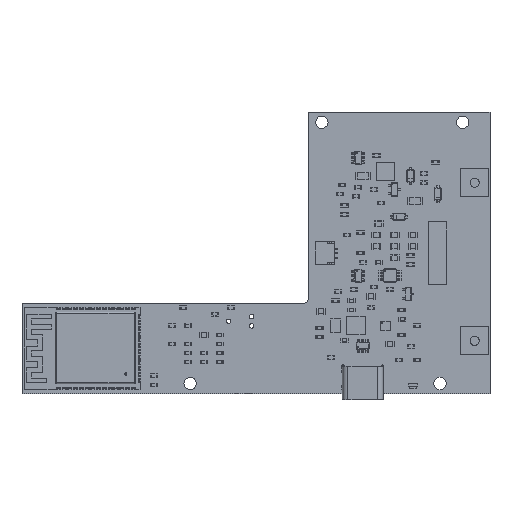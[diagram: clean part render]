
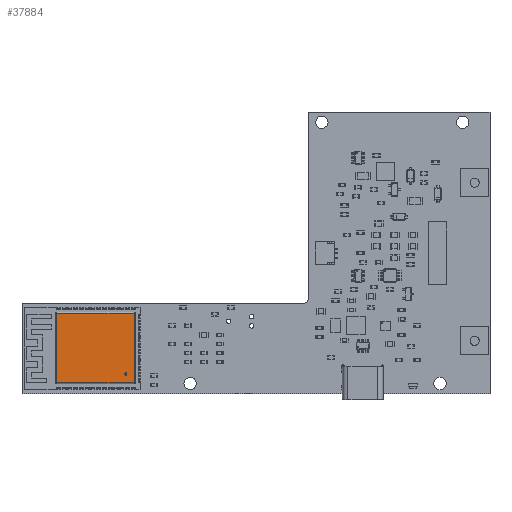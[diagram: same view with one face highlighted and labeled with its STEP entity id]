
A CAD part, top view. The second image highlights one B-rep face of the part: STEP entity #37884.
In plain terms, the highlighted planar face has unit normal (0, 0, 1).
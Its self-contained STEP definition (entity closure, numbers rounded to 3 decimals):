
#37708 = VERTEX_POINT('',#37709);
#37709 = CARTESIAN_POINT('',(-7.55,5.65,3.1));
#37716 = EDGE_CURVE('',#37708,#37717,#37719,.T.);
#37717 = VERTEX_POINT('',#37718);
#37718 = CARTESIAN_POINT('',(7.75,5.65,3.1));
#37719 = LINE('',#37720,#37721);
#37720 = CARTESIAN_POINT('',(-7.8,5.65,3.1));
#37721 = VECTOR('',#37722,1.);
#37722 = DIRECTION('',(1.,0.,0.));
#37884 = ADVANCED_FACE('',(#37885,#37910),#37921,.T.);
#37885 = FACE_BOUND('',#37886,.T.);
#37886 = EDGE_LOOP('',(#37887,#37897,#37903,#37904));
#37887 = ORIENTED_EDGE('',*,*,#37888,.F.);
#37888 = EDGE_CURVE('',#37889,#37891,#37893,.T.);
#37889 = VERTEX_POINT('',#37890);
#37890 = CARTESIAN_POINT('',(7.75,-11.45,3.1));
#37891 = VERTEX_POINT('',#37892);
#37892 = CARTESIAN_POINT('',(-7.55,-11.45,3.1));
#37893 = LINE('',#37894,#37895);
#37894 = CARTESIAN_POINT('',(8.,-11.45,3.1));
#37895 = VECTOR('',#37896,1.);
#37896 = DIRECTION('',(-1.,0.,0.));
#37897 = ORIENTED_EDGE('',*,*,#37898,.F.);
#37898 = EDGE_CURVE('',#37717,#37889,#37899,.T.);
#37899 = LINE('',#37900,#37901);
#37900 = CARTESIAN_POINT('',(7.75,5.9,3.1));
#37901 = VECTOR('',#37902,1.);
#37902 = DIRECTION('',(0.,-1.,0.));
#37903 = ORIENTED_EDGE('',*,*,#37716,.F.);
#37904 = ORIENTED_EDGE('',*,*,#37905,.F.);
#37905 = EDGE_CURVE('',#37891,#37708,#37906,.T.);
#37906 = LINE('',#37907,#37908);
#37907 = CARTESIAN_POINT('',(-7.55,-11.7,3.1));
#37908 = VECTOR('',#37909,1.);
#37909 = DIRECTION('',(0.,1.,0.));
#37910 = FACE_BOUND('',#37911,.T.);
#37911 = EDGE_LOOP('',(#37912));
#37912 = ORIENTED_EDGE('',*,*,#37913,.F.);
#37913 = EDGE_CURVE('',#37914,#37914,#37916,.T.);
#37914 = VERTEX_POINT('',#37915);
#37915 = CARTESIAN_POINT('',(-5.35,-9.6,3.1));
#37916 = CIRCLE('',#37917,0.25);
#37917 = AXIS2_PLACEMENT_3D('',#37918,#37919,#37920);
#37918 = CARTESIAN_POINT('',(-5.6,-9.6,3.1));
#37919 = DIRECTION('',(0.,0.,1.));
#37920 = DIRECTION('',(1.,0.,-0.));
#37921 = PLANE('',#37922);
#37922 = AXIS2_PLACEMENT_3D('',#37923,#37924,#37925);
#37923 = CARTESIAN_POINT('',(0.1,-2.9,3.1));
#37924 = DIRECTION('',(0.,0.,1.));
#37925 = DIRECTION('',(1.,0.,-0.));
